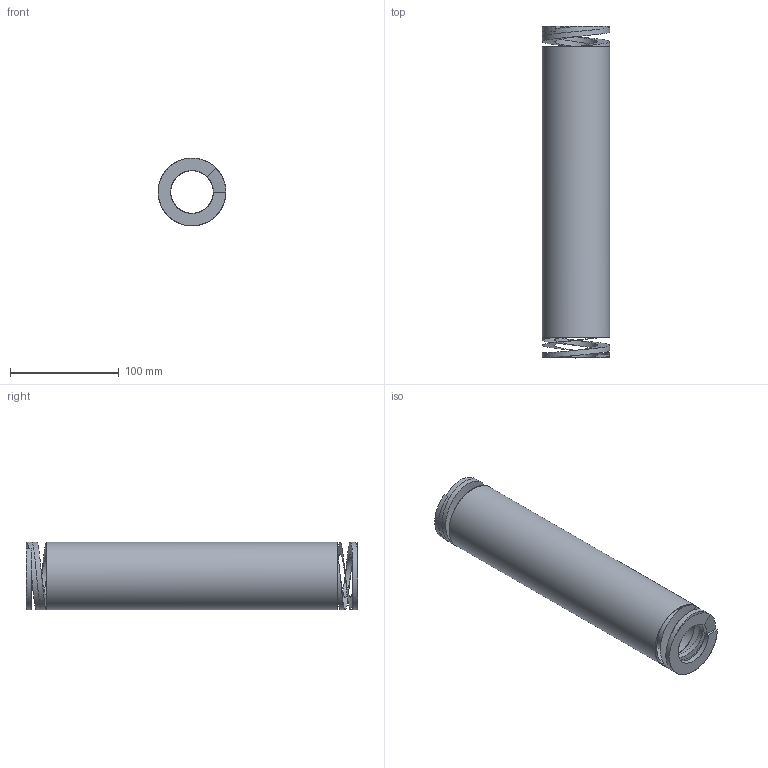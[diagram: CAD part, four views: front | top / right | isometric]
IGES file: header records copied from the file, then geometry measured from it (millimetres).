
Global section: file name: 2S63303; native system: Autodesk Inventor 2026; preprocessor: unknown; author: J. Iwanek; date: 20261007.113606; units: millimetre
Bounding box: 62.21 x 305 x 62.21 mm (x, y, z)
Volume: 532447.6 mm3; surface area: 105623.9 mm2
Topology: 1 solids, 1 shells, 22 faces, 74 edges, 46 vertices
Faces by surface type: bspline 22
